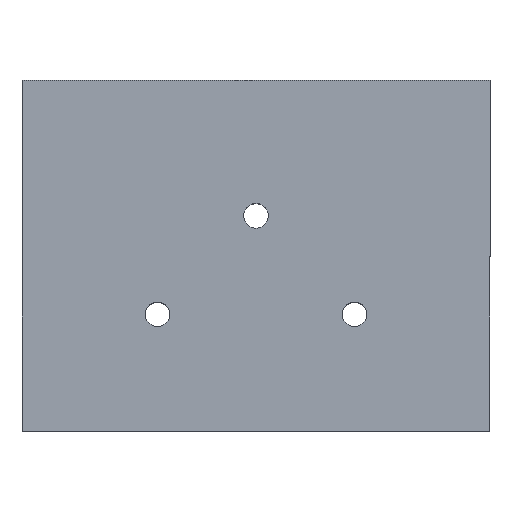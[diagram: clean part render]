
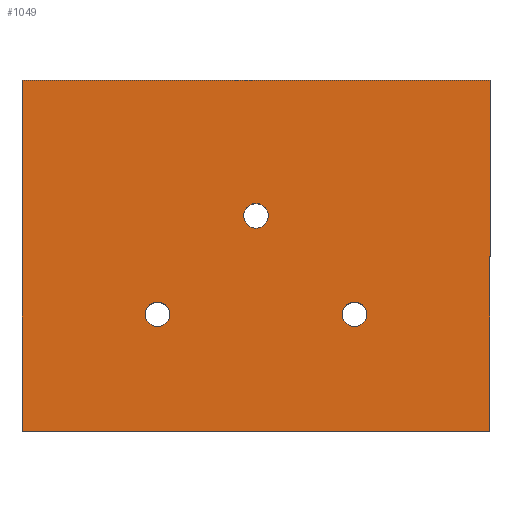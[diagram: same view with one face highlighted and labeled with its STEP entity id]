
A CAD part, top view. The second image highlights one B-rep face of the part: STEP entity #1049.
In plain terms, the highlighted planar face has unit normal (0, 0, 1).
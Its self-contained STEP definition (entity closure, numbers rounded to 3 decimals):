
#7 = ORIENTED_EDGE ( 'NONE', *, *, #873, .F. ) ;
#36 = DIRECTION ( 'NONE',  ( -1., 0., 0. ) ) ;
#51 = EDGE_CURVE ( 'NONE', #709, #86, #856, .T. ) ;
#74 = CARTESIAN_POINT ( 'NONE',  ( -19., 14.25, 8. ) ) ;
#79 = ORIENTED_EDGE ( 'NONE', *, *, #51, .F. ) ;
#86 = VERTEX_POINT ( 'NONE', #1589 ) ;
#96 = EDGE_CURVE ( 'NONE', #1587, #525, #977, .T. ) ;
#154 = LINE ( 'NONE', #1341, #402 ) ;
#158 = EDGE_CURVE ( 'NONE', #1301, #261, #543, .T. ) ;
#164 = CARTESIAN_POINT ( 'NONE',  ( -19., 14.25, 8. ) ) ;
#173 = CIRCLE ( 'NONE', #1575, 1. ) ;
#190 = AXIS2_PLACEMENT_3D ( 'NONE', #931, #1567, #1289 ) ;
#204 = DIRECTION ( 'NONE',  ( 1., 0., 0. ) ) ;
#216 = EDGE_LOOP ( 'NONE', ( #905, #774 ) ) ;
#227 = CARTESIAN_POINT ( 'NONE',  ( 0., 3.25, 8. ) ) ;
#247 = DIRECTION ( 'NONE',  ( 0., 0., 1. ) ) ;
#261 = VERTEX_POINT ( 'NONE', #1035 ) ;
#262 = CARTESIAN_POINT ( 'NONE',  ( -9., -4.75, 8. ) ) ;
#281 = ORIENTED_EDGE ( 'NONE', *, *, #1309, .T. ) ;
#286 = DIRECTION ( 'NONE',  ( 1., 0., 0. ) ) ;
#287 = ORIENTED_EDGE ( 'NONE', *, *, #1542, .F. ) ;
#322 = CARTESIAN_POINT ( 'NONE',  ( -19., -14.25, 8. ) ) ;
#329 = CARTESIAN_POINT ( 'NONE',  ( 7., -4.75, 8. ) ) ;
#402 = VECTOR ( 'NONE', #1455, 1000. ) ;
#422 = LINE ( 'NONE', #164, #1521 ) ;
#458 = VECTOR ( 'NONE', #204, 1000. ) ;
#481 = VERTEX_POINT ( 'NONE', #546 ) ;
#486 = EDGE_CURVE ( 'NONE', #850, #1321, #422, .T. ) ;
#493 = EDGE_LOOP ( 'NONE', ( #287, #1560 ) ) ;
#502 = DIRECTION ( 'NONE',  ( 1., 0., 0. ) ) ;
#505 = EDGE_CURVE ( 'NONE', #1428, #481, #173, .T. ) ;
#512 = CARTESIAN_POINT ( 'NONE',  ( 0., 3.25, 8. ) ) ;
#514 = CIRCLE ( 'NONE', #1096, 1. ) ;
#525 = VERTEX_POINT ( 'NONE', #1063 ) ;
#543 = CIRCLE ( 'NONE', #1597, 1. ) ;
#546 = CARTESIAN_POINT ( 'NONE',  ( 9., -4.75, 8. ) ) ;
#631 = DIRECTION ( 'NONE',  ( 1., 0., 0. ) ) ;
#638 = FACE_BOUND ( 'NONE', #1356, .T. ) ;
#698 = AXIS2_PLACEMENT_3D ( 'NONE', #1142, #247, #631 ) ;
#709 = VERTEX_POINT ( 'NONE', #262 ) ;
#748 = FACE_BOUND ( 'NONE', #493, .T. ) ;
#774 = ORIENTED_EDGE ( 'NONE', *, *, #505, .F. ) ;
#791 = CARTESIAN_POINT ( 'NONE',  ( 8., -4.75, 8. ) ) ;
#843 = DIRECTION ( 'NONE',  ( 0., 0., 1. ) ) ;
#850 = VERTEX_POINT ( 'NONE', #1039 ) ;
#856 = CIRCLE ( 'NONE', #1624, 1. ) ;
#873 = EDGE_CURVE ( 'NONE', #86, #709, #1433, .T. ) ;
#891 = ORIENTED_EDGE ( 'NONE', *, *, #486, .T. ) ;
#893 = CARTESIAN_POINT ( 'NONE',  ( -19., -14.25, 8. ) ) ;
#905 = ORIENTED_EDGE ( 'NONE', *, *, #1211, .F. ) ;
#931 = CARTESIAN_POINT ( 'NONE',  ( -8., -4.75, 8. ) ) ;
#932 = CARTESIAN_POINT ( 'NONE',  ( 8., -4.75, 8. ) ) ;
#977 = LINE ( 'NONE', #322, #458 ) ;
#1002 = DIRECTION ( 'NONE',  ( 0., 0., 1. ) ) ;
#1022 = EDGE_LOOP ( 'NONE', ( #281, #1184, #1422, #891 ) ) ;
#1035 = CARTESIAN_POINT ( 'NONE',  ( 1., 3.25, 8. ) ) ;
#1039 = CARTESIAN_POINT ( 'NONE',  ( 19., 14.25, 8. ) ) ;
#1049 = ADVANCED_FACE ( 'NONE', ( #748, #638, #1625, #1242 ), #1502, .T. ) ;
#1054 = CARTESIAN_POINT ( 'NONE',  ( 19., 14.25, 8. ) ) ;
#1063 = CARTESIAN_POINT ( 'NONE',  ( 19., -14.25, 8. ) ) ;
#1096 = AXIS2_PLACEMENT_3D ( 'NONE', #227, #1380, #1127 ) ;
#1102 = CARTESIAN_POINT ( 'NONE',  ( -8., -4.75, 8. ) ) ;
#1121 = VECTOR ( 'NONE', #1559, 1000. ) ;
#1127 = DIRECTION ( 'NONE',  ( 1., 0., 0. ) ) ;
#1142 = CARTESIAN_POINT ( 'NONE',  ( 0., 0., 8. ) ) ;
#1161 = LINE ( 'NONE', #1054, #1121 ) ;
#1172 = DIRECTION ( 'NONE',  ( 0., 0., 1. ) ) ;
#1184 = ORIENTED_EDGE ( 'NONE', *, *, #96, .T. ) ;
#1211 = EDGE_CURVE ( 'NONE', #481, #1428, #1435, .T. ) ;
#1242 = FACE_OUTER_BOUND ( 'NONE', #1022, .T. ) ;
#1277 = EDGE_CURVE ( 'NONE', #525, #850, #1161, .T. ) ;
#1287 = CARTESIAN_POINT ( 'NONE',  ( -1., 3.25, 8. ) ) ;
#1289 = DIRECTION ( 'NONE',  ( 1., 0., 0. ) ) ;
#1293 = DIRECTION ( 'NONE',  ( 1., 0., 0. ) ) ;
#1301 = VERTEX_POINT ( 'NONE', #1287 ) ;
#1309 = EDGE_CURVE ( 'NONE', #1321, #1587, #154, .T. ) ;
#1321 = VERTEX_POINT ( 'NONE', #74 ) ;
#1341 = CARTESIAN_POINT ( 'NONE',  ( -19., 14.25, 8. ) ) ;
#1356 = EDGE_LOOP ( 'NONE', ( #7, #79 ) ) ;
#1380 = DIRECTION ( 'NONE',  ( 0., 0., 1. ) ) ;
#1401 = DIRECTION ( 'NONE',  ( 0., 0., 1. ) ) ;
#1422 = ORIENTED_EDGE ( 'NONE', *, *, #1277, .T. ) ;
#1428 = VERTEX_POINT ( 'NONE', #329 ) ;
#1433 = CIRCLE ( 'NONE', #190, 1. ) ;
#1435 = CIRCLE ( 'NONE', #1570, 1. ) ;
#1455 = DIRECTION ( 'NONE',  ( 0., -1., 0. ) ) ;
#1502 = PLANE ( 'NONE',  #698 ) ;
#1521 = VECTOR ( 'NONE', #36, 1000. ) ;
#1542 = EDGE_CURVE ( 'NONE', #261, #1301, #514, .T. ) ;
#1559 = DIRECTION ( 'NONE',  ( 0., 1., 0. ) ) ;
#1560 = ORIENTED_EDGE ( 'NONE', *, *, #158, .F. ) ;
#1567 = DIRECTION ( 'NONE',  ( 0., 0., 1. ) ) ;
#1570 = AXIS2_PLACEMENT_3D ( 'NONE', #791, #1401, #1293 ) ;
#1575 = AXIS2_PLACEMENT_3D ( 'NONE', #932, #1172, #286 ) ;
#1583 = DIRECTION ( 'NONE',  ( 1., 0., 0. ) ) ;
#1587 = VERTEX_POINT ( 'NONE', #893 ) ;
#1589 = CARTESIAN_POINT ( 'NONE',  ( -7., -4.75, 8. ) ) ;
#1597 = AXIS2_PLACEMENT_3D ( 'NONE', #512, #1002, #502 ) ;
#1624 = AXIS2_PLACEMENT_3D ( 'NONE', #1102, #843, #1583 ) ;
#1625 = FACE_BOUND ( 'NONE', #216, .T. ) ;
